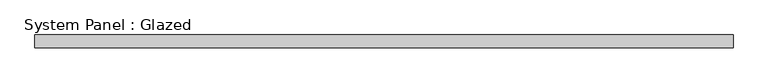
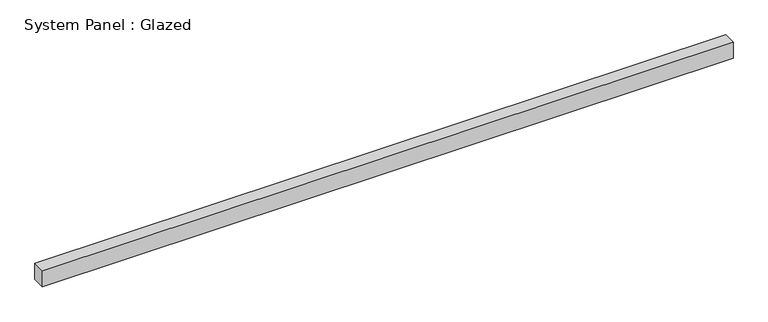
"""IFC4 building model written with IfcOpenShell, lengths in millimetres: plate geometry, System Panel : Glazed."""

from ifc_helpers import new_model, si_unit, origin, origin_with_axes, place, context, project, spatial, polyline, outline, extrude, source, transform, mapped, element, save


def system_panel_glazed_3a738299(model_context):
    return source(origin(), model_context, "Body", "SweptSolid", [
        extrude(outline(polyline([(673.7000001, -49.5), (-673.7000001, -49.5), (-673.7000001, -24.5), (673.7000001, -24.5), (673.7000001, -49.5)])), origin_with_axes(), (0.0, 0.0, 1.0), 33.25),
    ])


if __name__ == "__main__":
    model = new_model("IFC4")
    model_context = context("Model", 3, world=origin())
    ifc_project = project(units=[si_unit("LENGTHUNIT", "METRE", prefix="MILLI")], contexts=[model_context])
    site = spatial("IfcSite", under=ifc_project)
    building = spatial("IfcBuilding", under=site)
    placement = place(None, origin())
    system_panel_glazed_shape = system_panel_glazed_3a738299(model_context)
    element("IfcPlate", 1, ObjectType="System Panel : Glazed", at=placement, inside=building, context=model_context, shape_type="MappedRepresentation", body=[
        mapped(system_panel_glazed_shape, transform((0.0, 0.0, 0.0), x_axis=(1.0, 0.0, 0.0), y_axis=(0.0, 1.0, 0.0), z_axis=(0.0, 0.0, 1.0))),
    ])
    save(model, "model.ifc")
